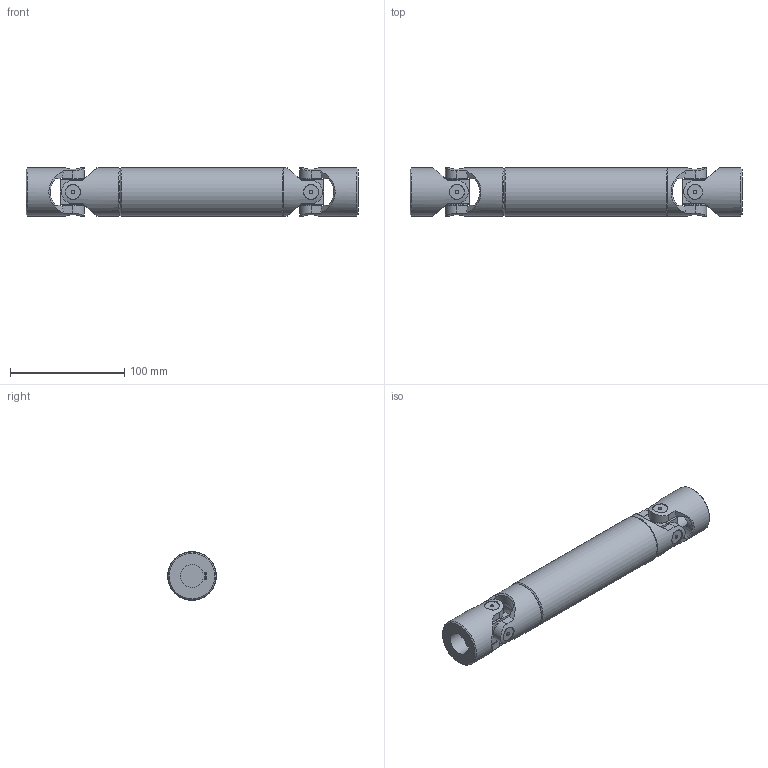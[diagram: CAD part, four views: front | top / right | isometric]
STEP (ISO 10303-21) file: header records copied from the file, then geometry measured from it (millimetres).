
FILE_DESCRIPTION(/* description */ (''),/* implementation_level */ '2;1');
FILE_NAME(/* name */ '\\SRV2016\Societa\Stefano\Disegni 3D\00Catalogo 3D\03Trasmissioni standard GA\3GA18\3GA18_SG0A2018.stp',/* time_stamp */ '2022-02-18T12:49:44+01:00',/* author */ ('acquisti'),/* organization */ (''),/* preprocessor_version */ 'ST-DEVELOPER v15.6',/* originating_system */ 'Autodesk Inventor 2015',/* authorisation */ '');
FILE_SCHEMA (('AUTOMOTIVE_DESIGN { 1 0 10303 214 3 1 1 }'));
Length unit declared in the file: millimetre
Products named in the file (5): 3GA18 LAI; 3GA18 LCI; 3G SFE; 3G MOC; 3GA18_SG0A2018
Assembly tree (6 placements, depth 2):
  3GA18_SG0A2018
    3GA18 LAI
    3GA18 LCI
    3G SFE  x2
    3G MOC  x2
Bounding box: 290 x 42.5 x 42.5 mm (x, y, z)
Volume: 292737.5 mm3; surface area: 85527.5 mm2
Topology: 6 solids, 6 shells, 228 faces, 561 edges, 369 vertices
Faces by surface type: plane 106, cylinder 93, cone 25, torus 4
Full cylindrical faces by diameter (mm): 3 x8, 18 x8, 20 x1, 22 x2, 35 x1, 42 x4, 42.5 x1
Entity records: 5785 total; most frequent: CARTESIAN_POINT 1675, DIRECTION 823, ORIENTED_EDGE 820, EDGE_CURVE 410, AXIS2_PLACEMENT_3D 335, VERTEX_POINT 286, EDGE_LOOP 224, FACE_OUTER_BOUND 176
